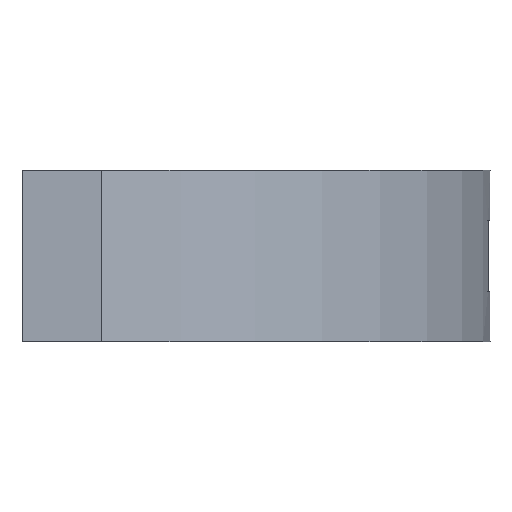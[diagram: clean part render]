
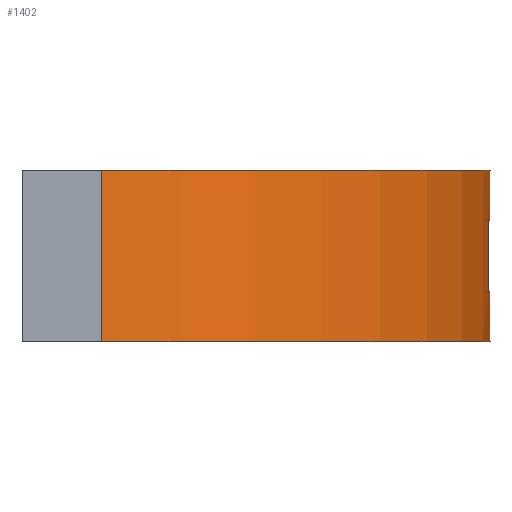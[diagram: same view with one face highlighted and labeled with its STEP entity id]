
A CAD part, left-side view. The second image highlights one B-rep face of the part: STEP entity #1402.
In plain terms, the highlighted cylindrical face has radius 33 mm (diameter 66 mm), a partial arc.
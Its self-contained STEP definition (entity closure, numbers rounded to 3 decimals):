
#70 = PLANE('',#71);
#71 = AXIS2_PLACEMENT_3D('',#72,#73,#74);
#72 = CARTESIAN_POINT('',(0.,0.,46.));
#73 = DIRECTION('',(0.,0.,1.));
#74 = DIRECTION('',(1.,0.,-0.));
#83 = VERTEX_POINT('',#84);
#84 = CARTESIAN_POINT('',(32.486,-5.8,46.));
#309 = PLANE('',#310);
#310 = AXIS2_PLACEMENT_3D('',#311,#312,#313);
#311 = CARTESIAN_POINT('',(31.,-5.8,34.));
#312 = DIRECTION('',(-0.,1.,0.));
#313 = DIRECTION('',(0.,0.,1.));
#436 = VERTEX_POINT('',#437);
#437 = CARTESIAN_POINT('',(-32.486,-5.8,46.));
#458 = EDGE_CURVE('',#436,#83,#459,.T.);
#459 = SURFACE_CURVE('',#460,(#465,#472),.PCURVE_S1.);
#460 = CIRCLE('',#461,33.);
#461 = AXIS2_PLACEMENT_3D('',#462,#463,#464);
#462 = CARTESIAN_POINT('',(0.,0.,46.));
#463 = DIRECTION('',(0.,0.,1.));
#464 = DIRECTION('',(1.,0.,-0.));
#465 = PCURVE('',#70,#466);
#466 = DEFINITIONAL_REPRESENTATION('',(#467),#471);
#467 = CIRCLE('',#468,33.);
#468 = AXIS2_PLACEMENT_2D('',#469,#470);
#469 = CARTESIAN_POINT('',(0.,0.));
#470 = DIRECTION('',(1.,0.));
#471 = ( GEOMETRIC_REPRESENTATION_CONTEXT(2) 
PARAMETRIC_REPRESENTATION_CONTEXT() REPRESENTATION_CONTEXT('2D SPACE',''
  ) );
#472 = PCURVE('',#473,#478);
#473 = CYLINDRICAL_SURFACE('',#474,33.);
#474 = AXIS2_PLACEMENT_3D('',#475,#476,#477);
#475 = CARTESIAN_POINT('',(0.,0.,34.));
#476 = DIRECTION('',(0.,0.,1.));
#477 = DIRECTION('',(1.,0.,-0.));
#478 = DEFINITIONAL_REPRESENTATION('',(#479),#483);
#479 = LINE('',#480,#481);
#480 = CARTESIAN_POINT('',(0.,12.));
#481 = VECTOR('',#482,1.);
#482 = DIRECTION('',(1.,0.));
#483 = ( GEOMETRIC_REPRESENTATION_CONTEXT(2) 
PARAMETRIC_REPRESENTATION_CONTEXT() REPRESENTATION_CONTEXT('2D SPACE',''
  ) );
#678 = PLANE('',#679);
#679 = AXIS2_PLACEMENT_3D('',#680,#681,#682);
#680 = CARTESIAN_POINT('',(0.,0.,34.));
#681 = DIRECTION('',(0.,0.,1.));
#682 = DIRECTION('',(1.,0.,-0.));
#737 = VERTEX_POINT('',#738);
#738 = CARTESIAN_POINT('',(32.486,-5.8,34.));
#854 = EDGE_CURVE('',#737,#83,#855,.T.);
#855 = SURFACE_CURVE('',#856,(#860,#866),.PCURVE_S1.);
#856 = LINE('',#857,#858);
#857 = CARTESIAN_POINT('',(32.486,-5.8,34.));
#858 = VECTOR('',#859,1.);
#859 = DIRECTION('',(0.,0.,1.));
#860 = PCURVE('',#309,#861);
#861 = DEFINITIONAL_REPRESENTATION('',(#862),#865);
#862 = B_SPLINE_CURVE_WITH_KNOTS('',1,(#863,#864),.UNSPECIFIED.,.F.,.F.,
  (2,2),(0.,12.),.PIECEWISE_BEZIER_KNOTS.);
#863 = CARTESIAN_POINT('',(0.,1.486));
#864 = CARTESIAN_POINT('',(12.,1.486));
#865 = ( GEOMETRIC_REPRESENTATION_CONTEXT(2) 
PARAMETRIC_REPRESENTATION_CONTEXT() REPRESENTATION_CONTEXT('2D SPACE',''
  ) );
#866 = PCURVE('',#473,#867);
#867 = DEFINITIONAL_REPRESENTATION('',(#868),#871);
#868 = B_SPLINE_CURVE_WITH_KNOTS('',1,(#869,#870),.UNSPECIFIED.,.F.,.F.,
  (2,2),(0.,12.),.PIECEWISE_BEZIER_KNOTS.);
#869 = CARTESIAN_POINT('',(6.107,0.));
#870 = CARTESIAN_POINT('',(6.107,12.));
#871 = ( GEOMETRIC_REPRESENTATION_CONTEXT(2) 
PARAMETRIC_REPRESENTATION_CONTEXT() REPRESENTATION_CONTEXT('2D SPACE',''
  ) );
#1402 = ADVANCED_FACE('',(#1403,#1455),#473,.T.);
#1403 = FACE_BOUND('',#1404,.T.);
#1404 = EDGE_LOOP('',(#1405,#1406,#1432,#1454));
#1405 = ORIENTED_EDGE('',*,*,#458,.F.);
#1406 = ORIENTED_EDGE('',*,*,#1407,.F.);
#1407 = EDGE_CURVE('',#1408,#436,#1410,.T.);
#1408 = VERTEX_POINT('',#1409);
#1409 = CARTESIAN_POINT('',(-32.486,-5.8,34.));
#1410 = SURFACE_CURVE('',#1411,(#1415,#1421),.PCURVE_S1.);
#1411 = LINE('',#1412,#1413);
#1412 = CARTESIAN_POINT('',(-32.486,-5.8,34.));
#1413 = VECTOR('',#1414,1.);
#1414 = DIRECTION('',(0.,0.,1.));
#1415 = PCURVE('',#473,#1416);
#1416 = DEFINITIONAL_REPRESENTATION('',(#1417),#1420);
#1417 = B_SPLINE_CURVE_WITH_KNOTS('',1,(#1418,#1419),.UNSPECIFIED.,.F.,
  .F.,(2,2),(0.,12.),.PIECEWISE_BEZIER_KNOTS.);
#1418 = CARTESIAN_POINT('',(3.318,0.));
#1419 = CARTESIAN_POINT('',(3.318,12.));
#1420 = ( GEOMETRIC_REPRESENTATION_CONTEXT(2) 
PARAMETRIC_REPRESENTATION_CONTEXT() REPRESENTATION_CONTEXT('2D SPACE',''
  ) );
#1421 = PCURVE('',#1422,#1427);
#1422 = PLANE('',#1423);
#1423 = AXIS2_PLACEMENT_3D('',#1424,#1425,#1426);
#1424 = CARTESIAN_POINT('',(-37.,-5.8,34.));
#1425 = DIRECTION('',(-0.,1.,0.));
#1426 = DIRECTION('',(0.,0.,1.));
#1427 = DEFINITIONAL_REPRESENTATION('',(#1428),#1431);
#1428 = B_SPLINE_CURVE_WITH_KNOTS('',1,(#1429,#1430),.UNSPECIFIED.,.F.,
  .F.,(2,2),(0.,12.),.PIECEWISE_BEZIER_KNOTS.);
#1429 = CARTESIAN_POINT('',(0.,4.514));
#1430 = CARTESIAN_POINT('',(12.,4.514));
#1431 = ( GEOMETRIC_REPRESENTATION_CONTEXT(2) 
PARAMETRIC_REPRESENTATION_CONTEXT() REPRESENTATION_CONTEXT('2D SPACE',''
  ) );
#1432 = ORIENTED_EDGE('',*,*,#1433,.T.);
#1433 = EDGE_CURVE('',#1408,#737,#1434,.T.);
#1434 = SURFACE_CURVE('',#1435,(#1440,#1447),.PCURVE_S1.);
#1435 = CIRCLE('',#1436,33.);
#1436 = AXIS2_PLACEMENT_3D('',#1437,#1438,#1439);
#1437 = CARTESIAN_POINT('',(0.,0.,34.));
#1438 = DIRECTION('',(0.,0.,1.));
#1439 = DIRECTION('',(1.,0.,-0.));
#1440 = PCURVE('',#473,#1441);
#1441 = DEFINITIONAL_REPRESENTATION('',(#1442),#1446);
#1442 = LINE('',#1443,#1444);
#1443 = CARTESIAN_POINT('',(0.,0.));
#1444 = VECTOR('',#1445,1.);
#1445 = DIRECTION('',(1.,0.));
#1446 = ( GEOMETRIC_REPRESENTATION_CONTEXT(2) 
PARAMETRIC_REPRESENTATION_CONTEXT() REPRESENTATION_CONTEXT('2D SPACE',''
  ) );
#1447 = PCURVE('',#678,#1448);
#1448 = DEFINITIONAL_REPRESENTATION('',(#1449),#1453);
#1449 = CIRCLE('',#1450,33.);
#1450 = AXIS2_PLACEMENT_2D('',#1451,#1452);
#1451 = CARTESIAN_POINT('',(0.,0.));
#1452 = DIRECTION('',(1.,0.));
#1453 = ( GEOMETRIC_REPRESENTATION_CONTEXT(2) 
PARAMETRIC_REPRESENTATION_CONTEXT() REPRESENTATION_CONTEXT('2D SPACE',''
  ) );
#1454 = ORIENTED_EDGE('',*,*,#854,.T.);
#1455 = FACE_BOUND('',#1456,.T.);
#1456 = EDGE_LOOP('',(#1457,#1488,#1514,#1543));
#1457 = ORIENTED_EDGE('',*,*,#1458,.F.);
#1458 = EDGE_CURVE('',#1459,#1461,#1463,.T.);
#1459 = VERTEX_POINT('',#1460);
#1460 = CARTESIAN_POINT('',(-3.02,-32.862,37.48));
#1461 = VERTEX_POINT('',#1462);
#1462 = CARTESIAN_POINT('',(3.02,-32.862,37.48));
#1463 = SURFACE_CURVE('',#1464,(#1469,#1476),.PCURVE_S1.);
#1464 = CIRCLE('',#1465,33.);
#1465 = AXIS2_PLACEMENT_3D('',#1466,#1467,#1468);
#1466 = CARTESIAN_POINT('',(0.,0.,37.48));
#1467 = DIRECTION('',(0.,0.,1.));
#1468 = DIRECTION('',(1.,0.,-0.));
#1469 = PCURVE('',#473,#1470);
#1470 = DEFINITIONAL_REPRESENTATION('',(#1471),#1475);
#1471 = LINE('',#1472,#1473);
#1472 = CARTESIAN_POINT('',(0.,3.48));
#1473 = VECTOR('',#1474,1.);
#1474 = DIRECTION('',(1.,0.));
#1475 = ( GEOMETRIC_REPRESENTATION_CONTEXT(2) 
PARAMETRIC_REPRESENTATION_CONTEXT() REPRESENTATION_CONTEXT('2D SPACE',''
  ) );
#1476 = PCURVE('',#1477,#1482);
#1477 = PLANE('',#1478);
#1478 = AXIS2_PLACEMENT_3D('',#1479,#1480,#1481);
#1479 = CARTESIAN_POINT('',(-3.02,-35.,37.48));
#1480 = DIRECTION('',(0.,0.,1.));
#1481 = DIRECTION('',(1.,0.,-0.));
#1482 = DEFINITIONAL_REPRESENTATION('',(#1483),#1487);
#1483 = CIRCLE('',#1484,33.);
#1484 = AXIS2_PLACEMENT_2D('',#1485,#1486);
#1485 = CARTESIAN_POINT('',(3.02,35.));
#1486 = DIRECTION('',(1.,0.));
#1487 = ( GEOMETRIC_REPRESENTATION_CONTEXT(2) 
PARAMETRIC_REPRESENTATION_CONTEXT() REPRESENTATION_CONTEXT('2D SPACE',''
  ) );
#1488 = ORIENTED_EDGE('',*,*,#1489,.T.);
#1489 = EDGE_CURVE('',#1459,#1490,#1492,.T.);
#1490 = VERTEX_POINT('',#1491);
#1491 = CARTESIAN_POINT('',(-3.02,-32.862,42.52));
#1492 = SURFACE_CURVE('',#1493,(#1497,#1503),.PCURVE_S1.);
#1493 = LINE('',#1494,#1495);
#1494 = CARTESIAN_POINT('',(-3.02,-32.862,34.));
#1495 = VECTOR('',#1496,1.);
#1496 = DIRECTION('',(0.,0.,1.));
#1497 = PCURVE('',#473,#1498);
#1498 = DEFINITIONAL_REPRESENTATION('',(#1499),#1502);
#1499 = B_SPLINE_CURVE_WITH_KNOTS('',1,(#1500,#1501),.UNSPECIFIED.,.F.,
  .F.,(2,2),(2.976,9.024),.PIECEWISE_BEZIER_KNOTS.);
#1500 = CARTESIAN_POINT('',(4.621,2.976));
#1501 = CARTESIAN_POINT('',(4.621,9.024));
#1502 = ( GEOMETRIC_REPRESENTATION_CONTEXT(2) 
PARAMETRIC_REPRESENTATION_CONTEXT() REPRESENTATION_CONTEXT('2D SPACE',''
  ) );
#1503 = PCURVE('',#1504,#1509);
#1504 = PLANE('',#1505);
#1505 = AXIS2_PLACEMENT_3D('',#1506,#1507,#1508);
#1506 = CARTESIAN_POINT('',(-3.02,-35.,37.48));
#1507 = DIRECTION('',(1.,0.,-0.));
#1508 = DIRECTION('',(0.,0.,1.));
#1509 = DEFINITIONAL_REPRESENTATION('',(#1510),#1513);
#1510 = B_SPLINE_CURVE_WITH_KNOTS('',1,(#1511,#1512),.UNSPECIFIED.,.F.,
  .F.,(2,2),(2.976,9.024),.PIECEWISE_BEZIER_KNOTS.);
#1511 = CARTESIAN_POINT('',(-0.504,-2.138));
#1512 = CARTESIAN_POINT('',(5.544,-2.138));
#1513 = ( GEOMETRIC_REPRESENTATION_CONTEXT(2) 
PARAMETRIC_REPRESENTATION_CONTEXT() REPRESENTATION_CONTEXT('2D SPACE',''
  ) );
#1514 = ORIENTED_EDGE('',*,*,#1515,.T.);
#1515 = EDGE_CURVE('',#1490,#1516,#1518,.T.);
#1516 = VERTEX_POINT('',#1517);
#1517 = CARTESIAN_POINT('',(3.02,-32.862,42.52));
#1518 = SURFACE_CURVE('',#1519,(#1524,#1531),.PCURVE_S1.);
#1519 = CIRCLE('',#1520,33.);
#1520 = AXIS2_PLACEMENT_3D('',#1521,#1522,#1523);
#1521 = CARTESIAN_POINT('',(0.,0.,42.52));
#1522 = DIRECTION('',(0.,0.,1.));
#1523 = DIRECTION('',(1.,0.,-0.));
#1524 = PCURVE('',#473,#1525);
#1525 = DEFINITIONAL_REPRESENTATION('',(#1526),#1530);
#1526 = LINE('',#1527,#1528);
#1527 = CARTESIAN_POINT('',(0.,8.52));
#1528 = VECTOR('',#1529,1.);
#1529 = DIRECTION('',(1.,0.));
#1530 = ( GEOMETRIC_REPRESENTATION_CONTEXT(2) 
PARAMETRIC_REPRESENTATION_CONTEXT() REPRESENTATION_CONTEXT('2D SPACE',''
  ) );
#1531 = PCURVE('',#1532,#1537);
#1532 = PLANE('',#1533);
#1533 = AXIS2_PLACEMENT_3D('',#1534,#1535,#1536);
#1534 = CARTESIAN_POINT('',(-3.02,-35.,42.52));
#1535 = DIRECTION('',(0.,0.,1.));
#1536 = DIRECTION('',(1.,0.,-0.));
#1537 = DEFINITIONAL_REPRESENTATION('',(#1538),#1542);
#1538 = CIRCLE('',#1539,33.);
#1539 = AXIS2_PLACEMENT_2D('',#1540,#1541);
#1540 = CARTESIAN_POINT('',(3.02,35.));
#1541 = DIRECTION('',(1.,0.));
#1542 = ( GEOMETRIC_REPRESENTATION_CONTEXT(2) 
PARAMETRIC_REPRESENTATION_CONTEXT() REPRESENTATION_CONTEXT('2D SPACE',''
  ) );
#1543 = ORIENTED_EDGE('',*,*,#1544,.F.);
#1544 = EDGE_CURVE('',#1461,#1516,#1545,.T.);
#1545 = SURFACE_CURVE('',#1546,(#1550,#1556),.PCURVE_S1.);
#1546 = LINE('',#1547,#1548);
#1547 = CARTESIAN_POINT('',(3.02,-32.862,34.));
#1548 = VECTOR('',#1549,1.);
#1549 = DIRECTION('',(0.,0.,1.));
#1550 = PCURVE('',#473,#1551);
#1551 = DEFINITIONAL_REPRESENTATION('',(#1552),#1555);
#1552 = B_SPLINE_CURVE_WITH_KNOTS('',1,(#1553,#1554),.UNSPECIFIED.,.F.,
  .F.,(2,2),(2.976,9.024),.PIECEWISE_BEZIER_KNOTS.);
#1553 = CARTESIAN_POINT('',(4.804,2.976));
#1554 = CARTESIAN_POINT('',(4.804,9.024));
#1555 = ( GEOMETRIC_REPRESENTATION_CONTEXT(2) 
PARAMETRIC_REPRESENTATION_CONTEXT() REPRESENTATION_CONTEXT('2D SPACE',''
  ) );
#1556 = PCURVE('',#1557,#1562);
#1557 = PLANE('',#1558);
#1558 = AXIS2_PLACEMENT_3D('',#1559,#1560,#1561);
#1559 = CARTESIAN_POINT('',(3.02,-35.,37.48));
#1560 = DIRECTION('',(1.,0.,-0.));
#1561 = DIRECTION('',(0.,0.,1.));
#1562 = DEFINITIONAL_REPRESENTATION('',(#1563),#1566);
#1563 = B_SPLINE_CURVE_WITH_KNOTS('',1,(#1564,#1565),.UNSPECIFIED.,.F.,
  .F.,(2,2),(2.976,9.024),.PIECEWISE_BEZIER_KNOTS.);
#1564 = CARTESIAN_POINT('',(-0.504,-2.138));
#1565 = CARTESIAN_POINT('',(5.544,-2.138));
#1566 = ( GEOMETRIC_REPRESENTATION_CONTEXT(2) 
PARAMETRIC_REPRESENTATION_CONTEXT() REPRESENTATION_CONTEXT('2D SPACE',''
  ) );
